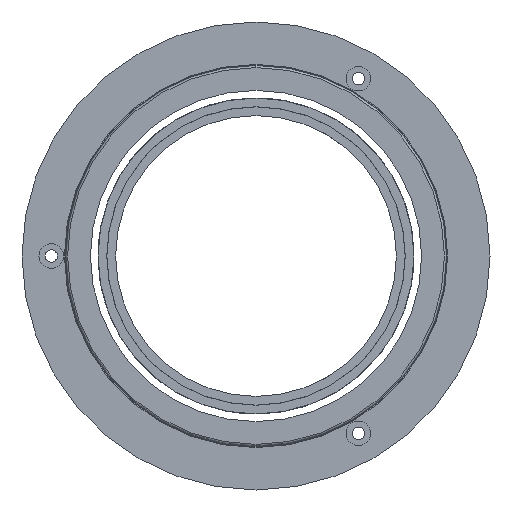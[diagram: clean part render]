
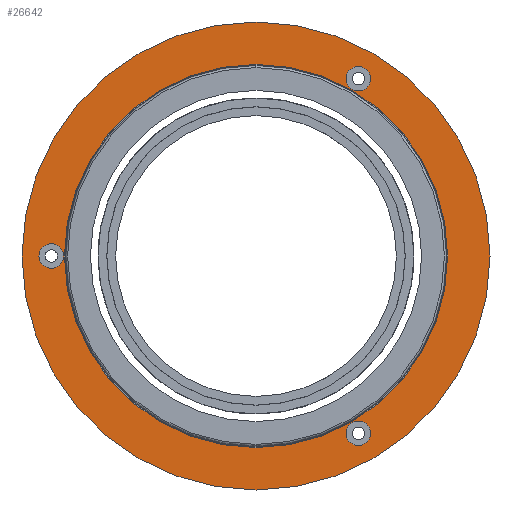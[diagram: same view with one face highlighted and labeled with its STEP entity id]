
A CAD part, left-side view. The second image highlights one B-rep face of the part: STEP entity #26642.
In plain terms, the highlighted planar face has unit normal (-1, 0, 0).
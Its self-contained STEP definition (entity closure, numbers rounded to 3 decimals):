
#1444 = EDGE_CURVE ( 'NONE', #36858, #5907, #50775, .T. ) ;
#1494 = PLANE ( 'NONE',  #21496 ) ;
#1659 = DIRECTION ( 'NONE',  ( 0., 0., -1. ) ) ;
#1745 = CARTESIAN_POINT ( 'NONE',  ( 2.8, 0., 30. ) ) ;
#2013 = DIRECTION ( 'NONE',  ( 0., 0., -1. ) ) ;
#2043 = ORIENTED_EDGE ( 'NONE', *, *, #4704, .T. ) ;
#2691 = EDGE_CURVE ( 'NONE', #9790, #24273, #18277, .T. ) ;
#2897 = FACE_BOUND ( 'NONE', #33441, .T. ) ;
#3045 = DIRECTION ( 'NONE',  ( 0., 0., -1. ) ) ;
#3454 = EDGE_CURVE ( 'NONE', #4102, #14450, #22001, .T. ) ;
#3926 = AXIS2_PLACEMENT_3D ( 'NONE', #48901, #25486, #2013 ) ;
#4102 = VERTEX_POINT ( 'NONE', #12080 ) ;
#4704 = EDGE_CURVE ( 'NONE', #30107, #43408, #41280, .T. ) ;
#5520 = EDGE_LOOP ( 'NONE', ( #50483, #44028 ) ) ;
#5819 = CARTESIAN_POINT ( 'NONE',  ( 2.8, 35., -2.1 ) ) ;
#5907 = VERTEX_POINT ( 'NONE', #18364 ) ;
#9790 = VERTEX_POINT ( 'NONE', #44255 ) ;
#9792 = ORIENTED_EDGE ( 'NONE', *, *, #45656, .T. ) ;
#10355 = CARTESIAN_POINT ( 'NONE',  ( 2.8, -17.5, -28.211 ) ) ;
#10520 = AXIS2_PLACEMENT_3D ( 'NONE', #48563, #25145, #1659 ) ;
#11955 = CIRCLE ( 'NONE', #43844, 30. ) ;
#11991 = CARTESIAN_POINT ( 'NONE',  ( 2.8, 0., 40. ) ) ;
#12080 = CARTESIAN_POINT ( 'NONE',  ( 2.8, -17.5, -32.411 ) ) ;
#12135 = FACE_BOUND ( 'NONE', #14070, .T. ) ;
#13145 = DIRECTION ( 'NONE',  ( 0., 0., -1. ) ) ;
#13204 = DIRECTION ( 'NONE',  ( 1., 0., 0. ) ) ;
#13299 = CARTESIAN_POINT ( 'NONE',  ( 2.8, -17.5, 30.311 ) ) ;
#13796 = EDGE_CURVE ( 'NONE', #43408, #30107, #40264, .T. ) ;
#14070 = EDGE_LOOP ( 'NONE', ( #21426, #21975 ) ) ;
#14358 = VERTEX_POINT ( 'NONE', #1745 ) ;
#14450 = VERTEX_POINT ( 'NONE', #10355 ) ;
#14642 = AXIS2_PLACEMENT_3D ( 'NONE', #39318, #15976, #43247 ) ;
#14864 = DIRECTION ( 'NONE',  ( -1., 0., 0. ) ) ;
#15138 = ORIENTED_EDGE ( 'NONE', *, *, #15836, .F. ) ;
#15836 = EDGE_CURVE ( 'NONE', #28117, #14358, #11955, .T. ) ;
#15976 = DIRECTION ( 'NONE',  ( -1., 0., 0. ) ) ;
#16188 = ORIENTED_EDGE ( 'NONE', *, *, #44205, .F. ) ;
#16419 = CIRCLE ( 'NONE', #3926, 2.1 ) ;
#17105 = CARTESIAN_POINT ( 'NONE',  ( 2.8, 0., 0. ) ) ;
#17975 = AXIS2_PLACEMENT_3D ( 'NONE', #40974, #40907, #40860 ) ;
#18277 = CIRCLE ( 'NONE', #29648, 2.1 ) ;
#18364 = CARTESIAN_POINT ( 'NONE',  ( 2.8, 35., 2.1 ) ) ;
#19329 = AXIS2_PLACEMENT_3D ( 'NONE', #49923, #26526, #3045 ) ;
#21098 = DIRECTION ( 'NONE',  ( 0., 0., -1. ) ) ;
#21294 = DIRECTION ( 'NONE',  ( -1., 0., 0. ) ) ;
#21426 = ORIENTED_EDGE ( 'NONE', *, *, #31708, .T. ) ;
#21496 = AXIS2_PLACEMENT_3D ( 'NONE', #44584, #21294, #48565 ) ;
#21830 = ORIENTED_EDGE ( 'NONE', *, *, #3454, .T. ) ;
#21975 = ORIENTED_EDGE ( 'NONE', *, *, #2691, .T. ) ;
#22001 = CIRCLE ( 'NONE', #17975, 2.1 ) ;
#22588 = FACE_BOUND ( 'NONE', #5520, .T. ) ;
#24273 = VERTEX_POINT ( 'NONE', #33232 ) ;
#25145 = DIRECTION ( 'NONE',  ( 1., 0., 0. ) ) ;
#25486 = DIRECTION ( 'NONE',  ( 1., 0., 0. ) ) ;
#26279 = CIRCLE ( 'NONE', #14642, 30. ) ;
#26526 = DIRECTION ( 'NONE',  ( 1., 0., 0. ) ) ;
#26642 = ADVANCED_FACE ( 'NONE', ( #2897, #12135, #43266, #22588, #32869 ), #1494, .T. ) ;
#27538 = DIRECTION ( 'NONE',  ( 0., 0., -1. ) ) ;
#27579 = DIRECTION ( 'NONE',  ( 1., 0., 0. ) ) ;
#27738 = CARTESIAN_POINT ( 'NONE',  ( 2.8, 35., 0. ) ) ;
#28117 = VERTEX_POINT ( 'NONE', #40069 ) ;
#28588 = CIRCLE ( 'NONE', #19329, 2.1 ) ;
#29648 = AXIS2_PLACEMENT_3D ( 'NONE', #13299, #13204, #13145 ) ;
#30107 = VERTEX_POINT ( 'NONE', #37017 ) ;
#30504 = CIRCLE ( 'NONE', #10520, 2.1 ) ;
#30996 = EDGE_CURVE ( 'NONE', #5907, #36858, #30504, .T. ) ;
#31708 = EDGE_CURVE ( 'NONE', #24273, #9790, #16419, .T. ) ;
#32869 = FACE_OUTER_BOUND ( 'NONE', #40224, .T. ) ;
#33232 = CARTESIAN_POINT ( 'NONE',  ( 2.8, -17.5, 28.211 ) ) ;
#33441 = EDGE_LOOP ( 'NONE', ( #16188, #15138 ) ) ;
#35215 = AXIS2_PLACEMENT_3D ( 'NONE', #27738, #27579, #27538 ) ;
#36188 = AXIS2_PLACEMENT_3D ( 'NONE', #17105, #44371, #21098 ) ;
#36858 = VERTEX_POINT ( 'NONE', #5819 ) ;
#37017 = CARTESIAN_POINT ( 'NONE',  ( 2.8, 0., -40. ) ) ;
#38251 = CARTESIAN_POINT ( 'NONE',  ( 2.8, 0., 0. ) ) ;
#39318 = CARTESIAN_POINT ( 'NONE',  ( 2.8, 0., 0. ) ) ;
#40069 = CARTESIAN_POINT ( 'NONE',  ( 2.8, 0., -30. ) ) ;
#40224 = EDGE_LOOP ( 'NONE', ( #2043, #45932 ) ) ;
#40264 = CIRCLE ( 'NONE', #36188, 40. ) ;
#40860 = DIRECTION ( 'NONE',  ( 0., 0., -1. ) ) ;
#40907 = DIRECTION ( 'NONE',  ( 1., 0., 0. ) ) ;
#40974 = CARTESIAN_POINT ( 'NONE',  ( 2.8, -17.5, -30.311 ) ) ;
#41280 = CIRCLE ( 'NONE', #47094, 40. ) ;
#42182 = DIRECTION ( 'NONE',  ( 0., 0., 1. ) ) ;
#43247 = DIRECTION ( 'NONE',  ( 0., 0., 1. ) ) ;
#43266 = FACE_BOUND ( 'NONE', #46052, .T. ) ;
#43408 = VERTEX_POINT ( 'NONE', #11991 ) ;
#43844 = AXIS2_PLACEMENT_3D ( 'NONE', #38251, #14864, #42182 ) ;
#44028 = ORIENTED_EDGE ( 'NONE', *, *, #30996, .T. ) ;
#44205 = EDGE_CURVE ( 'NONE', #14358, #28117, #26279, .T. ) ;
#44225 = DIRECTION ( 'NONE',  ( 0., 0., -1. ) ) ;
#44255 = CARTESIAN_POINT ( 'NONE',  ( 2.8, -17.5, 32.411 ) ) ;
#44371 = DIRECTION ( 'NONE',  ( -1., 0., 0. ) ) ;
#44377 = DIRECTION ( 'NONE',  ( -1., 0., 0. ) ) ;
#44513 = CARTESIAN_POINT ( 'NONE',  ( 2.8, 0., 0. ) ) ;
#44584 = CARTESIAN_POINT ( 'NONE',  ( 2.8, 30., 0. ) ) ;
#45656 = EDGE_CURVE ( 'NONE', #14450, #4102, #28588, .T. ) ;
#45932 = ORIENTED_EDGE ( 'NONE', *, *, #13796, .T. ) ;
#46052 = EDGE_LOOP ( 'NONE', ( #21830, #9792 ) ) ;
#47094 = AXIS2_PLACEMENT_3D ( 'NONE', #44513, #44377, #44225 ) ;
#48563 = CARTESIAN_POINT ( 'NONE',  ( 2.8, 35., 0. ) ) ;
#48565 = DIRECTION ( 'NONE',  ( 0., 0., 1. ) ) ;
#48901 = CARTESIAN_POINT ( 'NONE',  ( 2.8, -17.5, 30.311 ) ) ;
#49923 = CARTESIAN_POINT ( 'NONE',  ( 2.8, -17.5, -30.311 ) ) ;
#50483 = ORIENTED_EDGE ( 'NONE', *, *, #1444, .T. ) ;
#50775 = CIRCLE ( 'NONE', #35215, 2.1 ) ;
